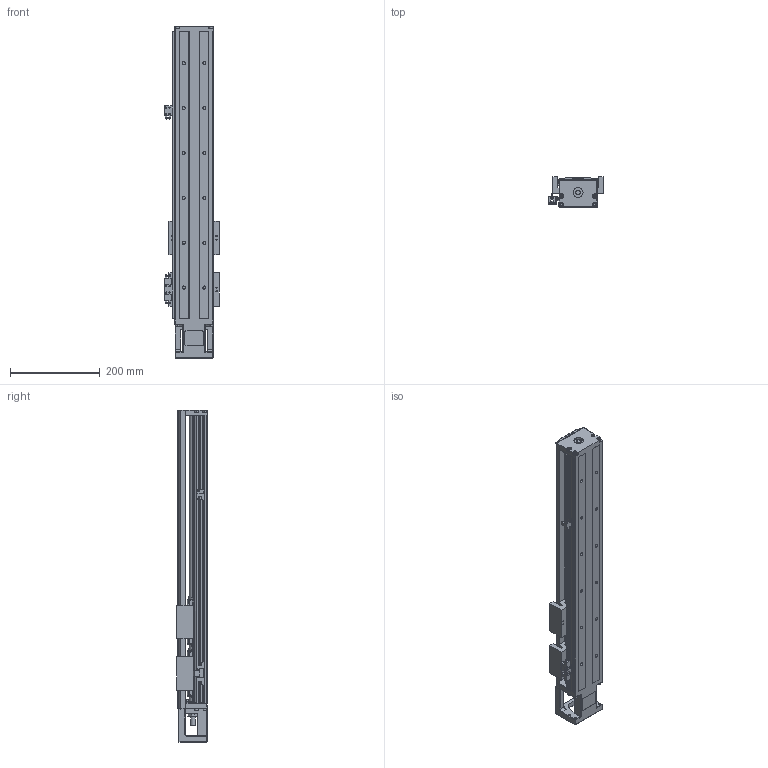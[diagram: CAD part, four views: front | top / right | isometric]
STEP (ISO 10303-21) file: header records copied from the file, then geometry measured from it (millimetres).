
FILE_DESCRIPTION (( 'STEP AP214' ), '1' );
FILE_NAME ('SFKK86-640A2-F0C.STEP', '2022-05-05T12:07:13', ( '微软用户' ), ( '微软中国' ), 'SwSTEP 2.0', 'SolidWorks 2018', '' );
FILE_SCHEMA (( 'AUTOMOTIVE_DESIGN' ));
Length unit declared in the file: millimetre
Products named in the file (11): SFKK86-640A2-F0C; SFKK86-F0_KKR86-ZT-P-640; 带盖挡光片：KK-86-S2-D1; SFKK86-LR 憤癹寢耋_640; 极限轨道与开关固定座组合_640; hexagon socket countersunk head screws gb_GB_FASTENER_SCREWS_HSCHS M4X10-N; SFKK86-A1-C; SFKK86-CU_640; hexagon socket countersunk head screws gb_GB_FASTENER_SCREWS_HSCHS M3X8-N; 开关固定座：KK-674S2-F; SX674嫖萇羲壽
Assembly tree (18 placements, depth 3):
  SFKK86-640A2-F0C
    SFKK86-F0_KKR86-ZT-P-640
    SFKK86-A1-C  x2
    极限轨道与开关固定座组合_640
      SFKK86-LR 憤癹寢耋_640
      开关固定座：KK-674S2-F  x2
    SX674嫖萇羲壽  x3
    带盖挡光片：KK-86-S2-D1
    hexagon socket countersunk head screws gb_GB_FASTENER_SCREWS_HSCHS M3X8-N  x2
    SFKK86-CU_640
    hexagon socket countersunk head screws gb_GB_FASTENER_SCREWS_HSCHS M4X10-N  x4
Bounding box: 121.25 x 68 x 740 mm (x, y, z)
Volume: 2097663.7 mm3; surface area: 645884.6 mm2
Topology: 60 solids, 60 shells, 2768 faces, 7100 edges, 4438 vertices
Faces by surface type: plane 1386, cylinder 929, cone 336, torus 85, sphere 24, bspline 8
Entity records: 58099 total; most frequent: CARTESIAN_POINT 14242, DIRECTION 9105, ORIENTED_EDGE 8632, EDGE_CURVE 4316, AXIS2_PLACEMENT_3D 3242, VERTEX_POINT 2751, VECTOR 2621, LINE 2621
